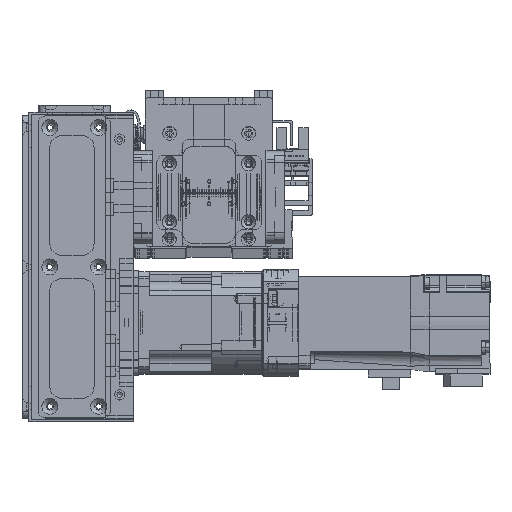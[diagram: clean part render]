
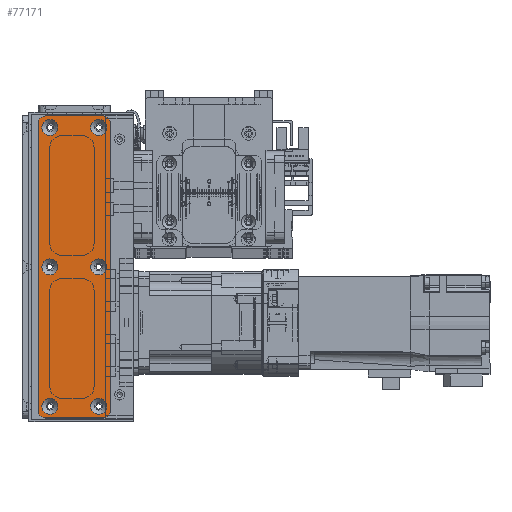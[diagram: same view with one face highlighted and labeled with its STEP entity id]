
A CAD part, top view. The second image highlights one B-rep face of the part: STEP entity #77171.
In plain terms, the highlighted planar face has unit normal (0, 0, 1).
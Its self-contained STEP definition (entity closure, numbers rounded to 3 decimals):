
#1864=FACE_BOUND('',#13266,.T.);
#1865=FACE_BOUND('',#13267,.T.);
#1866=FACE_BOUND('',#13268,.T.);
#1867=FACE_BOUND('',#13269,.T.);
#1868=FACE_BOUND('',#13270,.T.);
#1869=FACE_BOUND('',#13271,.T.);
#4514=PLANE('',#84940);
#8530=FACE_OUTER_BOUND('',#13265,.T.);
#13265=EDGE_LOOP('',(#72090,#72091,#72092,#72093,#72094,#72095,#72096,#72097));
#13266=EDGE_LOOP('',(#72098));
#13267=EDGE_LOOP('',(#72099));
#13268=EDGE_LOOP('',(#72100));
#13269=EDGE_LOOP('',(#72101));
#13270=EDGE_LOOP('',(#72102));
#13271=EDGE_LOOP('',(#72103));
#16489=CIRCLE('',#84894,3.45);
#16492=CIRCLE('',#84899,3.45);
#16495=CIRCLE('',#84904,3.45);
#16498=CIRCLE('',#84909,3.45);
#16501=CIRCLE('',#84914,3.45);
#16504=CIRCLE('',#84919,3.45);
#16511=CIRCLE('',#84929,3.);
#16512=CIRCLE('',#84932,3.);
#16513=CIRCLE('',#84935,3.);
#16514=CIRCLE('',#84938,3.);
#24180=LINE('',#133778,#31855);
#24183=LINE('',#133786,#31858);
#24186=LINE('',#133794,#31861);
#24189=LINE('',#133801,#31864);
#31855=VECTOR('',#106461,10.);
#31858=VECTOR('',#106470,10.);
#31861=VECTOR('',#106479,10.);
#31864=VECTOR('',#106488,10.);
#39064=VERTEX_POINT('',#133694);
#39067=VERTEX_POINT('',#133704);
#39070=VERTEX_POINT('',#133714);
#39073=VERTEX_POINT('',#133724);
#39076=VERTEX_POINT('',#133734);
#39079=VERTEX_POINT('',#133744);
#39090=VERTEX_POINT('',#133771);
#39091=VERTEX_POINT('',#133773);
#39092=VERTEX_POINT('',#133777);
#39093=VERTEX_POINT('',#133781);
#39094=VERTEX_POINT('',#133785);
#39095=VERTEX_POINT('',#133789);
#39096=VERTEX_POINT('',#133793);
#39097=VERTEX_POINT('',#133797);
#50046=EDGE_CURVE('',#39064,#39064,#16489,.T.);
#50051=EDGE_CURVE('',#39067,#39067,#16492,.T.);
#50056=EDGE_CURVE('',#39070,#39070,#16495,.T.);
#50061=EDGE_CURVE('',#39073,#39073,#16498,.T.);
#50066=EDGE_CURVE('',#39076,#39076,#16501,.T.);
#50071=EDGE_CURVE('',#39079,#39079,#16504,.T.);
#50085=EDGE_CURVE('',#39091,#39090,#16511,.T.);
#50087=EDGE_CURVE('',#39092,#39091,#24180,.T.);
#50089=EDGE_CURVE('',#39093,#39092,#16512,.T.);
#50091=EDGE_CURVE('',#39094,#39093,#24183,.T.);
#50093=EDGE_CURVE('',#39095,#39094,#16513,.T.);
#50095=EDGE_CURVE('',#39096,#39095,#24186,.T.);
#50097=EDGE_CURVE('',#39097,#39096,#16514,.T.);
#50099=EDGE_CURVE('',#39090,#39097,#24189,.T.);
#72090=ORIENTED_EDGE('',*,*,#50099,.T.);
#72091=ORIENTED_EDGE('',*,*,#50097,.T.);
#72092=ORIENTED_EDGE('',*,*,#50095,.T.);
#72093=ORIENTED_EDGE('',*,*,#50093,.T.);
#72094=ORIENTED_EDGE('',*,*,#50091,.T.);
#72095=ORIENTED_EDGE('',*,*,#50089,.T.);
#72096=ORIENTED_EDGE('',*,*,#50087,.T.);
#72097=ORIENTED_EDGE('',*,*,#50085,.T.);
#72098=ORIENTED_EDGE('',*,*,#50046,.T.);
#72099=ORIENTED_EDGE('',*,*,#50051,.T.);
#72100=ORIENTED_EDGE('',*,*,#50056,.T.);
#72101=ORIENTED_EDGE('',*,*,#50061,.T.);
#72102=ORIENTED_EDGE('',*,*,#50066,.T.);
#72103=ORIENTED_EDGE('',*,*,#50071,.T.);
#77171=ADVANCED_FACE('',(#8530,#1864,#1865,#1866,#1867,#1868,#1869),#4514,
 .T.);
#84894=AXIS2_PLACEMENT_3D('',#133695,#106369,#106370);
#84899=AXIS2_PLACEMENT_3D('',#133705,#106381,#106382);
#84904=AXIS2_PLACEMENT_3D('',#133715,#106393,#106394);
#84909=AXIS2_PLACEMENT_3D('',#133725,#106405,#106406);
#84914=AXIS2_PLACEMENT_3D('',#133735,#106417,#106418);
#84919=AXIS2_PLACEMENT_3D('',#133745,#106429,#106430);
#84929=AXIS2_PLACEMENT_3D('',#133774,#106456,#106457);
#84932=AXIS2_PLACEMENT_3D('',#133782,#106465,#106466);
#84935=AXIS2_PLACEMENT_3D('',#133790,#106474,#106475);
#84938=AXIS2_PLACEMENT_3D('',#133798,#106483,#106484);
#84940=AXIS2_PLACEMENT_3D('',#133802,#106489,#106490);
#106369=DIRECTION('center_axis',(0.,0.,-1.));
#106370=DIRECTION('ref_axis',(1.,0.,0.));
#106381=DIRECTION('center_axis',(0.,0.,-1.));
#106382=DIRECTION('ref_axis',(1.,0.,0.));
#106393=DIRECTION('center_axis',(0.,0.,-1.));
#106394=DIRECTION('ref_axis',(1.,0.,0.));
#106405=DIRECTION('center_axis',(0.,0.,-1.));
#106406=DIRECTION('ref_axis',(1.,0.,0.));
#106417=DIRECTION('center_axis',(0.,0.,-1.));
#106418=DIRECTION('ref_axis',(1.,0.,0.));
#106429=DIRECTION('center_axis',(0.,0.,-1.));
#106430=DIRECTION('ref_axis',(1.,0.,0.));
#106456=DIRECTION('center_axis',(0.,0.,1.));
#106457=DIRECTION('ref_axis',(0.,1.,0.));
#106461=DIRECTION('',(-1.,0.,0.));
#106465=DIRECTION('center_axis',(0.,0.,1.));
#106466=DIRECTION('ref_axis',(1.,0.,0.));
#106470=DIRECTION('',(0.,1.,0.));
#106474=DIRECTION('center_axis',(0.,0.,1.));
#106475=DIRECTION('ref_axis',(0.,-1.,0.));
#106479=DIRECTION('',(1.,0.,0.));
#106483=DIRECTION('center_axis',(0.,0.,1.));
#106484=DIRECTION('ref_axis',(-1.,0.,0.));
#106488=DIRECTION('',(0.,-1.,0.));
#106489=DIRECTION('center_axis',(0.,0.,1.));
#106490=DIRECTION('ref_axis',(1.,0.,0.));
#133694=CARTESIAN_POINT('',(-3.45,10.5,1.5));
#133695=CARTESIAN_POINT('Origin',(0.,10.5,1.5));
#133704=CARTESIAN_POINT('',(56.55,-10.5,1.5));
#133705=CARTESIAN_POINT('Origin',(60.,-10.5,1.5));
#133714=CARTESIAN_POINT('',(-63.45,10.5,1.5));
#133715=CARTESIAN_POINT('Origin',(-60.,10.5,1.5));
#133724=CARTESIAN_POINT('',(56.55,10.5,1.5));
#133725=CARTESIAN_POINT('Origin',(60.,10.5,1.5));
#133734=CARTESIAN_POINT('',(-63.45,-10.5,1.5));
#133735=CARTESIAN_POINT('Origin',(-60.,-10.5,1.5));
#133744=CARTESIAN_POINT('',(-3.45,-10.5,1.5));
#133745=CARTESIAN_POINT('Origin',(0.,-10.5,1.5));
#133771=CARTESIAN_POINT('',(-65.,12.5,1.5));
#133773=CARTESIAN_POINT('',(-62.,15.5,1.5));
#133774=CARTESIAN_POINT('Origin',(-62.,12.5,1.5));
#133777=CARTESIAN_POINT('',(62.,15.5,1.5));
#133778=CARTESIAN_POINT('',(62.,15.5,1.5));
#133781=CARTESIAN_POINT('',(65.,12.5,1.5));
#133782=CARTESIAN_POINT('Origin',(62.,12.5,1.5));
#133785=CARTESIAN_POINT('',(65.,-12.5,1.5));
#133786=CARTESIAN_POINT('',(65.,-12.5,1.5));
#133789=CARTESIAN_POINT('',(62.,-15.5,1.5));
#133790=CARTESIAN_POINT('Origin',(62.,-12.5,1.5));
#133793=CARTESIAN_POINT('',(-62.,-15.5,1.5));
#133794=CARTESIAN_POINT('',(-62.,-15.5,1.5));
#133797=CARTESIAN_POINT('',(-65.,-12.5,1.5));
#133798=CARTESIAN_POINT('Origin',(-62.,-12.5,1.5));
#133801=CARTESIAN_POINT('',(-65.,12.5,1.5));
#133802=CARTESIAN_POINT('Origin',(0.,0.,
1.5));
